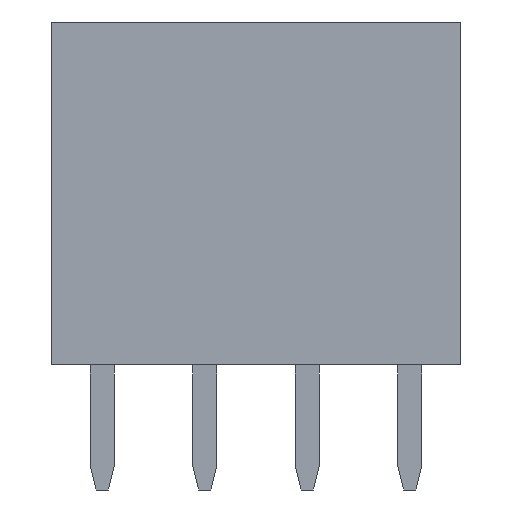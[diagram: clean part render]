
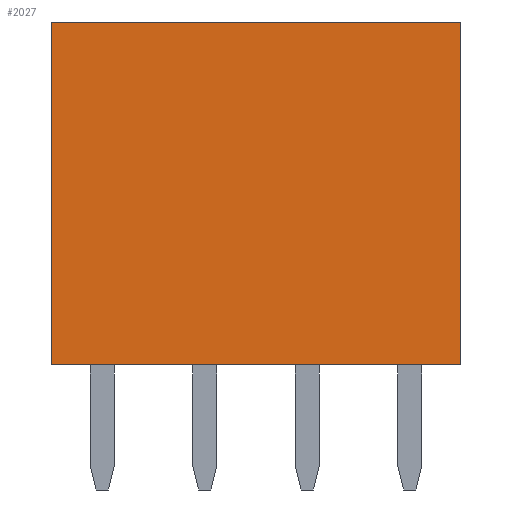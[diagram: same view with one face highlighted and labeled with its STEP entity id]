
A CAD part, front view. The second image highlights one B-rep face of the part: STEP entity #2027.
In plain terms, the highlighted planar face has unit normal (0, -1, 0).
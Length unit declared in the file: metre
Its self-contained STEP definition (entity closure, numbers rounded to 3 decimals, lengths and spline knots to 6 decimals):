
#525=ORIENTED_EDGE('',*,*,#853,.T.);
#526=ORIENTED_EDGE('',*,*,#854,.T.);
#527=ORIENTED_EDGE('',*,*,#855,.F.);
#528=ORIENTED_EDGE('',*,*,#856,.F.);
#853=EDGE_CURVE('',#1037,#1038,#1301,.T.);
#854=EDGE_CURVE('',#1038,#1039,#1302,.T.);
#855=EDGE_CURVE('',#1040,#1039,#1303,.T.);
#856=EDGE_CURVE('',#1037,#1040,#1304,.T.);
#1037=VERTEX_POINT('',#3444);
#1038=VERTEX_POINT('',#3445);
#1039=VERTEX_POINT('',#3447);
#1040=VERTEX_POINT('',#3449);
#1301=LINE('',#3443,#1573);
#1302=LINE('',#3446,#1574);
#1303=LINE('',#3448,#1575);
#1304=LINE('',#3450,#1576);
#1573=VECTOR('',#2895,1.);
#1574=VECTOR('',#2896,1.);
#1575=VECTOR('',#2897,1.);
#1576=VECTOR('',#2898,1.);
#1693=EDGE_LOOP('',(#525,#526,#527,#528));
#1807=FACE_BOUND('',#1693,.T.);
#1921=PLANE('',#2441);
#2027=ADVANCED_FACE('',(#1807),#1921,.F.);
#2441=AXIS2_PLACEMENT_3D('',#3442,#2893,#2894);
#2893=DIRECTION('',(0.,1.,0.));
#2894=DIRECTION('',(1.,0.,0.));
#2895=DIRECTION('',(1.,0.,0.));
#2896=DIRECTION('',(0.,0.,1.));
#2897=DIRECTION('',(1.,0.,0.));
#2898=DIRECTION('',(0.,0.,1.));
#3442=CARTESIAN_POINT('',(0.13536,-0.06927,0.001595));
#3443=CARTESIAN_POINT('',(0.13536,-0.06927,0.001595));
#3444=CARTESIAN_POINT('',(0.13536,-0.06927,0.001595));
#3445=CARTESIAN_POINT('',(0.14552,-0.06927,0.001595));
#3446=CARTESIAN_POINT('',(0.14552,-0.06927,0.001595));
#3447=CARTESIAN_POINT('',(0.14552,-0.06927,0.010095));
#3448=CARTESIAN_POINT('',(0.13536,-0.06927,0.010095));
#3449=CARTESIAN_POINT('',(0.13536,-0.06927,0.010095));
#3450=CARTESIAN_POINT('',(0.13536,-0.06927,0.001595));
